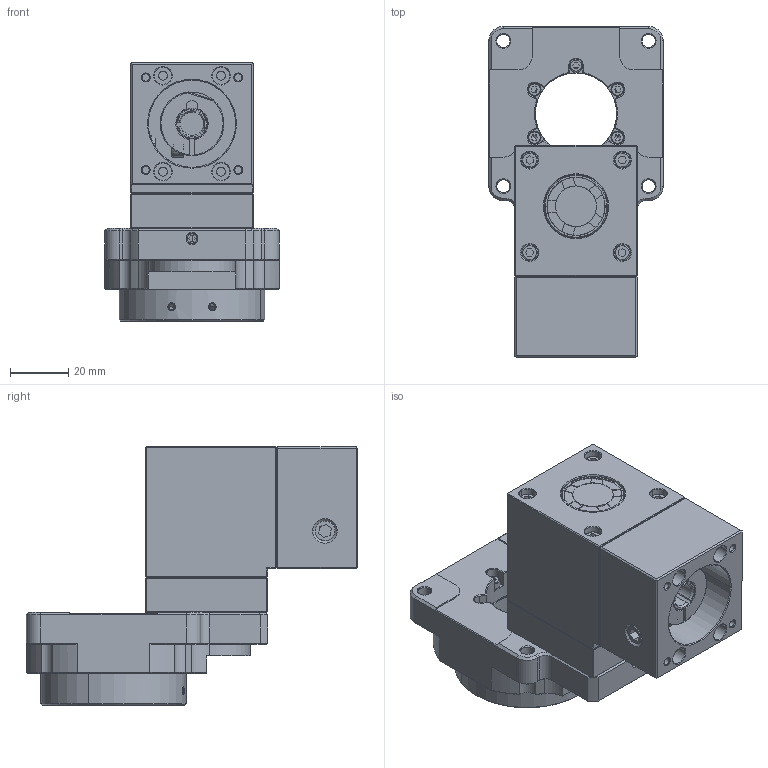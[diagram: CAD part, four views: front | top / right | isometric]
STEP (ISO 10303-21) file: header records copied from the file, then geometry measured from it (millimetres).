
FILE_DESCRIPTION (( 'STEP AP203' ), '1' );
FILE_NAME ('HRG60Z 蚾饜极.STEP', '2022-08-03T05:05:38', ( 'Windows User' ), ( 'P R C' ), 'SwSTEP 2.0', 'SolidWorks 2020', '' );
FILE_SCHEMA (( 'CONFIG_CONTROL_DESIGN' ));
Length unit declared in the file: millimetre
Products named in the file (1): HRG60Z 蚾饜极
Bounding box: 60 x 114 x 89 mm (x, y, z)
Surface area: 46666.1 mm2 (no closed solid volume)
Topology: 0 solids, 33 shells, 637 faces, 2013 edges, 1385 vertices
Faces by surface type: plane 286, cylinder 151, cone 148, torus 32, bspline 20
Entity records: 25732 total; most frequent: CARTESIAN_POINT 8005, DIRECTION 3701, ORIENTED_EDGE 3354, EDGE_CURVE 2009, VERTEX_POINT 1385, AXIS2_PLACEMENT_3D 1291, VECTOR 1119, LINE 1119
